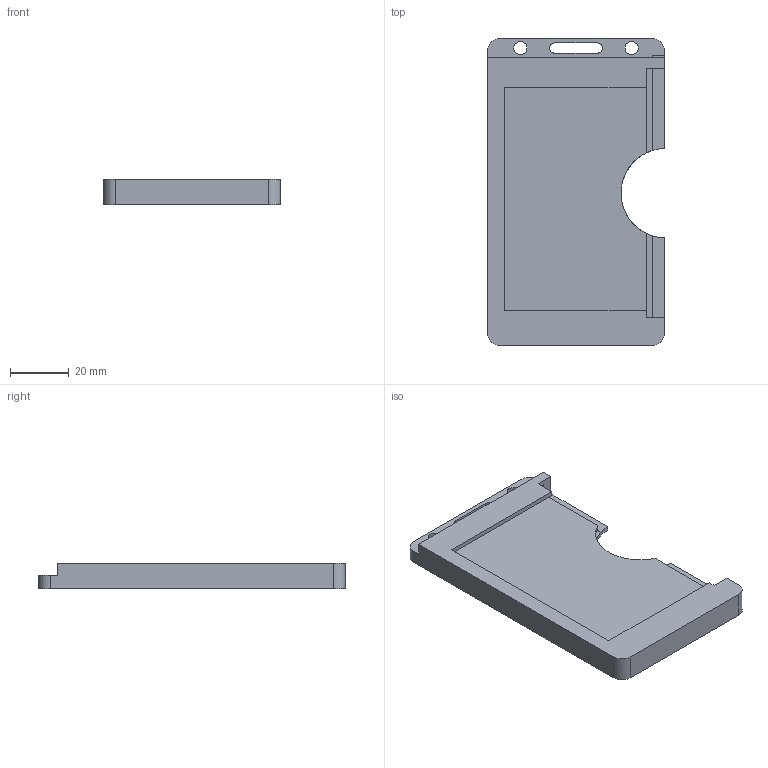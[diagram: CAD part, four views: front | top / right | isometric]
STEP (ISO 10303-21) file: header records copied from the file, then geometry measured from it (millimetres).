
FILE_DESCRIPTION(('Open CASCADE Model'),'2;1');
FILE_NAME('Open CASCADE Shape Model','2026-10-27T18:19:28',('Author'),( 'Open CASCADE'),'Open CASCADE STEP processor 8.0','build123d', 'Unknown');
FILE_SCHEMA(('AUTOMOTIVE_DESIGN { 1 0 10303 214 1 1 1 1 }'));
Length unit declared in the file: millimetre
Products named in the file (1): COMPOUND
Bounding box: 60.3 x 104.8 x 8.75 mm (x, y, z)
Volume: 22218.3 mm3; surface area: 26553.3 mm2
Topology: 1 solids, 1 shells, 61 faces, 182 edges, 119 vertices
Faces by surface type: plane 51, cylinder 10
Full cylindrical faces by diameter (mm): 4.5 x2
Entity records: 4360 total; most frequent: CARTESIAN_POINT 899, DIRECTION 580, LINE 402, VECTOR 402, ORIENTED_EDGE 366, PCURVE 364, DEFINITIONAL_REPRESENTATION 364, EDGE_CURVE 182
